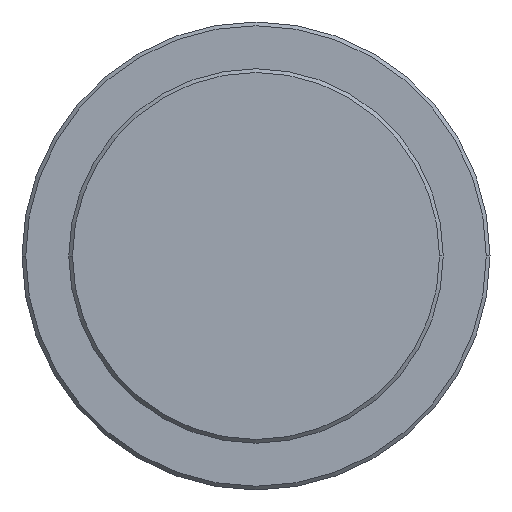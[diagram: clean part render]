
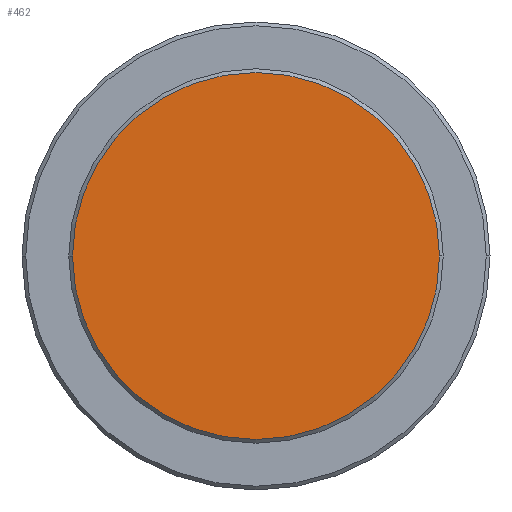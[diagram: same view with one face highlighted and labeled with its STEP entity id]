
A CAD part, left-side view. The second image highlights one B-rep face of the part: STEP entity #462.
In plain terms, the highlighted planar face has unit normal (-1, 0, 0).
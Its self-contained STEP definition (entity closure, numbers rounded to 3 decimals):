
#51 = AXIS2_PLACEMENT_3D ( 'NONE', #1351, #1204, #413 ) ;
#72 = FACE_OUTER_BOUND ( 'NONE', #209, .T. ) ;
#170 = CARTESIAN_POINT ( 'NONE',  ( -61., 0., 0. ) ) ;
#209 = EDGE_LOOP ( 'NONE', ( #470, #976 ) ) ;
#245 = EDGE_CURVE ( 'NONE', #702, #1076, #987, .T. ) ;
#413 = DIRECTION ( 'NONE',  ( 0., -1., 0. ) ) ;
#462 = ADVANCED_FACE ( 'NONE', ( #72 ), #1620, .T. ) ;
#470 = ORIENTED_EDGE ( 'NONE', *, *, #245, .T. ) ;
#483 = CARTESIAN_POINT ( 'NONE',  ( -61., 9.8, 0. ) ) ;
#702 = VERTEX_POINT ( 'NONE', #483 ) ;
#707 = DIRECTION ( 'NONE',  ( 0., -1., 0. ) ) ;
#749 = CARTESIAN_POINT ( 'NONE',  ( -61., 0., 0. ) ) ;
#845 = CARTESIAN_POINT ( 'NONE',  ( -61., -9.8, 0. ) ) ;
#976 = ORIENTED_EDGE ( 'NONE', *, *, #1637, .T. ) ;
#987 = CIRCLE ( 'NONE', #1485, 9.8 ) ;
#1022 = DIRECTION ( 'NONE',  ( 0., -1., 0. ) ) ;
#1036 = CIRCLE ( 'NONE', #1622, 9.8 ) ;
#1076 = VERTEX_POINT ( 'NONE', #845 ) ;
#1107 = DIRECTION ( 'NONE',  ( -1., 0., 0. ) ) ;
#1155 = DIRECTION ( 'NONE',  ( -1., 0., 0. ) ) ;
#1204 = DIRECTION ( 'NONE',  ( -1., 0., 0. ) ) ;
#1351 = CARTESIAN_POINT ( 'NONE',  ( -61., 0., 0. ) ) ;
#1485 = AXIS2_PLACEMENT_3D ( 'NONE', #170, #1107, #707 ) ;
#1620 = PLANE ( 'NONE',  #51 ) ;
#1622 = AXIS2_PLACEMENT_3D ( 'NONE', #749, #1155, #1022 ) ;
#1637 = EDGE_CURVE ( 'NONE', #1076, #702, #1036, .T. ) ;
